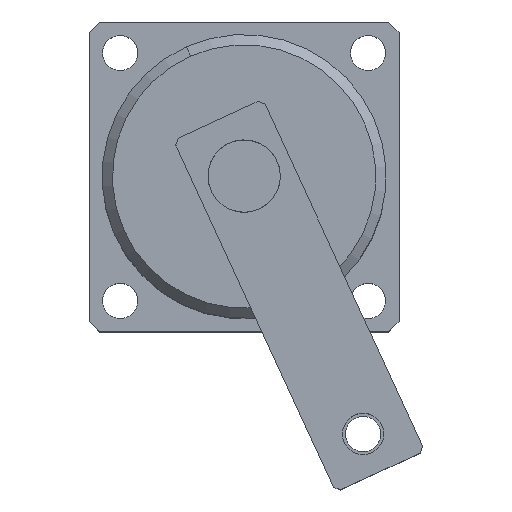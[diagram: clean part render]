
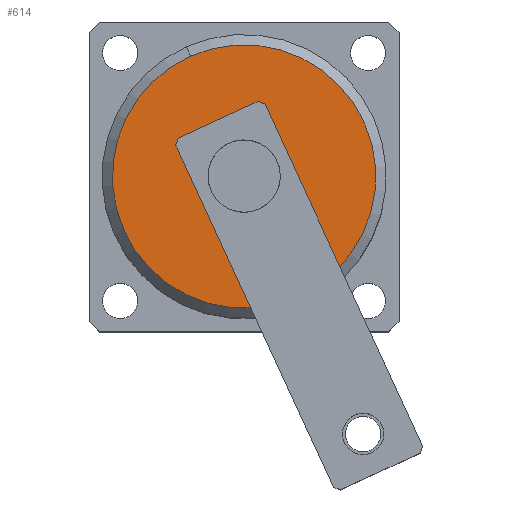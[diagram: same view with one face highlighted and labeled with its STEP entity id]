
A CAD part, top view. The second image highlights one B-rep face of the part: STEP entity #614.
In plain terms, the highlighted planar face has unit normal (0, 0, 1) as drawn and (-1, 0, 0) by its records, which use the part's own axes.
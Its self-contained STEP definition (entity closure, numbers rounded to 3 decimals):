
#9 = VERTEX_POINT ( 'NONE', #675 ) ;
#11 = EDGE_CURVE ( 'NONE', #35, #9, #674, .T. ) ;
#35 = VERTEX_POINT ( 'NONE', #702 ) ;
#123 = ORIENTED_EDGE ( 'NONE', *, *, #129, .T. ) ;
#127 = VERTEX_POINT ( 'NONE', #851 ) ;
#129 = EDGE_CURVE ( 'NONE', #130, #127, #850, .T. ) ;
#130 = VERTEX_POINT ( 'NONE', #908 ) ;
#494 = EDGE_LOOP ( 'NONE', ( #629, #631 ) ) ;
#614 = ADVANCED_FACE ( 'NONE', ( #1743, #1742 ), #1741, .F. ) ;
#626 = EDGE_CURVE ( 'NONE', #127, #130, #1788, .T. ) ;
#627 = ORIENTED_EDGE ( 'NONE', *, *, #626, .T. ) ;
#629 = ORIENTED_EDGE ( 'NONE', *, *, #630, .F. ) ;
#630 = EDGE_CURVE ( 'NONE', #9, #35, #1783, .T. ) ;
#631 = ORIENTED_EDGE ( 'NONE', *, *, #11, .F. ) ;
#632 = EDGE_LOOP ( 'NONE', ( #627, #123 ) ) ;
#670 = DIRECTION ( 'NONE',  ( 0., 0., 1. ) ) ;
#671 = DIRECTION ( 'NONE',  ( -1., 0., 0. ) ) ;
#672 = CARTESIAN_POINT ( 'NONE',  ( -57.497, 0., 0. ) ) ;
#673 = AXIS2_PLACEMENT_3D ( 'NONE', #672, #671, #670 ) ;
#674 = CIRCLE ( 'NONE', #673, 8. ) ;
#675 = CARTESIAN_POINT ( 'NONE',  ( -57.497, 0., 8. ) ) ;
#702 = CARTESIAN_POINT ( 'NONE',  ( -57.497, 0., -8. ) ) ;
#846 = DIRECTION ( 'NONE',  ( 0., 0., -1. ) ) ;
#847 = DIRECTION ( 'NONE',  ( -1., 0., 0. ) ) ;
#848 = CARTESIAN_POINT ( 'NONE',  ( -57.497, 0., 0. ) ) ;
#849 = AXIS2_PLACEMENT_3D ( 'NONE', #848, #847, #846 ) ;
#850 = CIRCLE ( 'NONE', #849, 25.5 ) ;
#851 = CARTESIAN_POINT ( 'NONE',  ( -57.497, 0., -25.5 ) ) ;
#908 = CARTESIAN_POINT ( 'NONE',  ( -57.497, 0., 25.5 ) ) ;
#1737 = DIRECTION ( 'NONE',  ( 0., 0., -1. ) ) ;
#1738 = DIRECTION ( 'NONE',  ( 1., 0., 0. ) ) ;
#1739 = CARTESIAN_POINT ( 'NONE',  ( -57.497, 0., 0. ) ) ;
#1740 = AXIS2_PLACEMENT_3D ( 'NONE', #1739, #1738, #1737 ) ;
#1741 = PLANE ( 'NONE',  #1740 ) ;
#1742 = FACE_OUTER_BOUND ( 'NONE', #632, .T. ) ;
#1743 = FACE_BOUND ( 'NONE', #494, .T. ) ;
#1779 = DIRECTION ( 'NONE',  ( 0., 0., 1. ) ) ;
#1780 = DIRECTION ( 'NONE',  ( -1., 0., 0. ) ) ;
#1781 = CARTESIAN_POINT ( 'NONE',  ( -57.497, 0., 0. ) ) ;
#1782 = AXIS2_PLACEMENT_3D ( 'NONE', #1781, #1780, #1779 ) ;
#1783 = CIRCLE ( 'NONE', #1782, 8. ) ;
#1784 = DIRECTION ( 'NONE',  ( 0., 0., -1. ) ) ;
#1785 = DIRECTION ( 'NONE',  ( -1., 0., 0. ) ) ;
#1786 = CARTESIAN_POINT ( 'NONE',  ( -57.497, 0., 0. ) ) ;
#1787 = AXIS2_PLACEMENT_3D ( 'NONE', #1786, #1785, #1784 ) ;
#1788 = CIRCLE ( 'NONE', #1787, 25.5 ) ;
